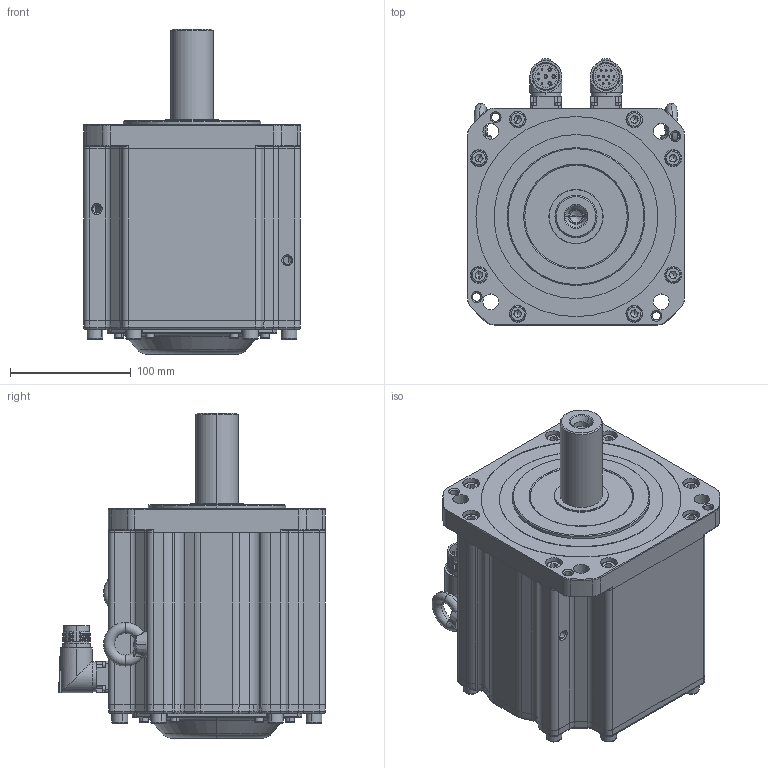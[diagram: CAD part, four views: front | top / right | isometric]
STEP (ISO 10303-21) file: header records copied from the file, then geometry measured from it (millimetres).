
FILE_DESCRIPTION (( 'STEP AP203' ), '1' );
FILE_NAME ('MC20-180-3M15-N332-0¡õPL-NNNN.STEP', '2025-07-30T13:22:34', ( '' ), ( '' ), 'SwSTEP 2.0', 'SolidWorks 2014', '' );
FILE_SCHEMA (( 'CONFIG_CONTROL_DESIGN' ));
Products named in the file (1): MC20-180-3M15-N332-0¡õPL-NNNN
Bounding box: 180 x 221.35 x 269.95 mm (x, y, z)
Volume: 7014527 mm3; surface area: 479843.7 mm2
Topology: 40 solids, 42 shells, 2194 faces, 5079 edges, 3029 vertices
Faces by surface type: plane 879, cylinder 578, cone 482, torus 208, bspline 47
Entity records: 64157 total; most frequent: CARTESIAN_POINT 14092, DIRECTION 10995, ORIENTED_EDGE 9938, EDGE_CURVE 4969, AXIS2_PLACEMENT_3D 4263, VERTEX_POINT 3029, LINE 2469, VECTOR 2469
